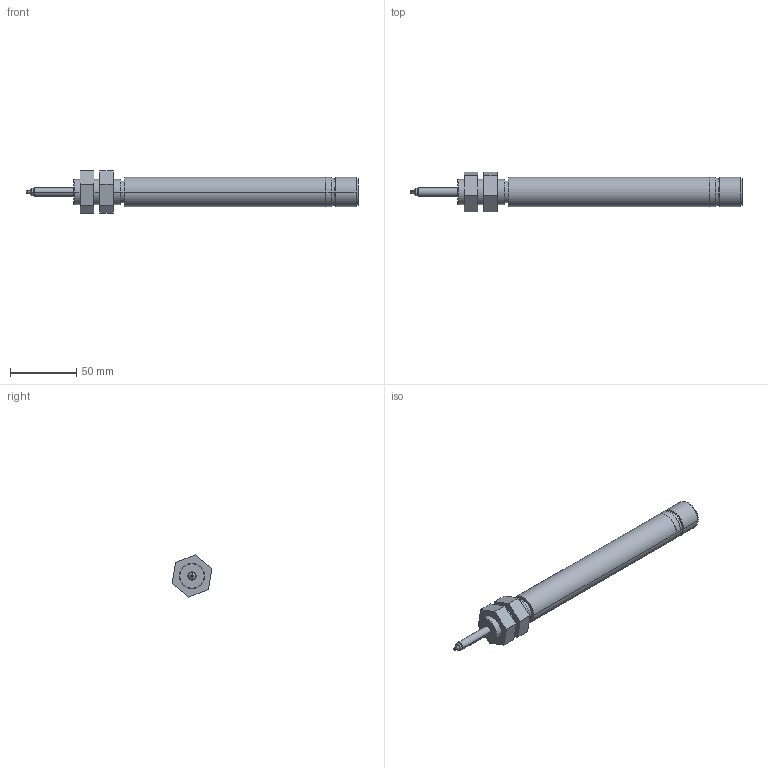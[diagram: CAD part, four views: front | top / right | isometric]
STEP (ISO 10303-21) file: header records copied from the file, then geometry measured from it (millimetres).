
FILE_DESCRIPTION(('STEP AP203'),'1');
FILE_NAME('C:/TPO v2/SharedFS/Outgoing/burster_87352-000_e08pcgeh8oq5a31y2dfy9i0un.stp','2013-08-26T20:24:04',('TraceParts'),('TraceParts S.A.'),'XStep 1.0',' ',' ');
FILE_SCHEMA(('CONFIG_CONTROL_DESIGN'));
Length unit declared in the file: millimetre
Products named in the file (1): 1
Bounding box: 251 x 30.12 x 31.8 mm (x, y, z)
Volume: 84083.8 mm3; surface area: 19691.8 mm2
Topology: 1 solids, 2 shells, 102 faces, 244 edges, 137 vertices
Faces by surface type: cylinder 49, plane 31, sphere 14, cone 6, torus 2
Entity records: 2834 total; most frequent: DIRECTION 530, CARTESIAN_POINT 492, ORIENTED_EDGE 432, EDGE_CURVE 216, AXIS2_PLACEMENT_3D 215, VERTEX_POINT 137, EDGE_LOOP 121, CIRCLE 112
